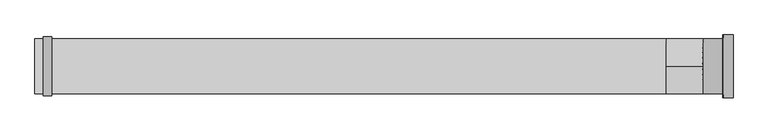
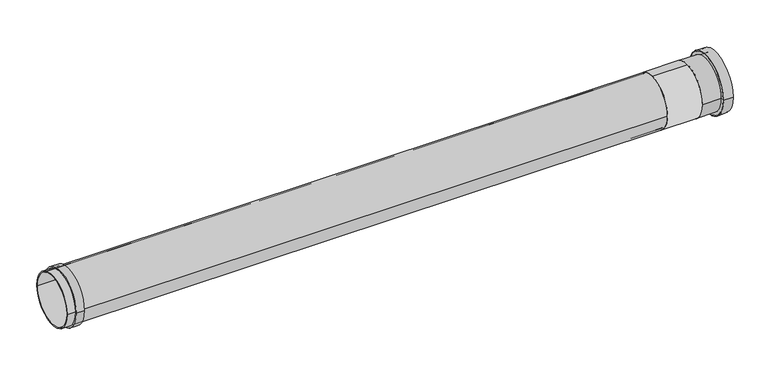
"""IFC4 building model written with IfcOpenShell, lengths in millimetres: pipe fitting geometry, NLRS-90-PIF_Wavin PVC Buitenriolering Wavinflex : 125-125."""

import ifcopenshell
import ifcopenshell.guid

model = None  # the IFC model being written
_history = None  # IfcOwnerHistory: only IFC2X3 demands one
_inside = {}  # id of a spatial element -> (the spatial element, [elements in it])
_under = {}  # id of a project, library or spatial element -> (it, [spatial elements below it])
_declared = {}  # id of a project -> (the project, [libraries it declares])
_typed = {}  # id of a type object -> (the type object, [elements of that type])
_made_of = {}  # id of a material, layer set ... -> (it, [elements and type objects made of it])


def new_model(schema):
    """Start an empty IFC model of exactly this schema.

    Asked for "IFC4X3", IfcOpenShell would pick the latest addendum, in which some entities
    have other attributes; the version numbers below select the first issue.
    IFC2X3 requires an IfcOwnerHistory on every rooted entity: one is made here for all.
    """
    global model, _history
    if schema == "IFC4X3":
        model = ifcopenshell.file(schema_version=(4, 3, 0, 0))
    else:
        model = ifcopenshell.file(schema=schema)
    _inside.clear()
    _under.clear()
    _declared.clear()
    _typed.clear()
    _made_of.clear()
    _history = None
    if model.schema == "IFC2X3":
        org = make("IfcOrganization", Name="unknown")
        user = make(
            "IfcPersonAndOrganization",
            ThePerson=make("IfcPerson", FamilyName="unknown"),
            TheOrganization=org,
        )
        app = make(
            "IfcApplication",
            ApplicationDeveloper=org,
            Version="unknown",
            ApplicationFullName="unknown",
            ApplicationIdentifier="unknown",
        )
        _history = make(
            "IfcOwnerHistory",
            OwningUser=user,
            OwningApplication=app,
            ChangeAction="ADDED",
            CreationDate=0,
        )
    return model


def make(cls, **values):
    """One entity of the class cls with the attributes given. An attribute that is None is left unset."""
    return model.create_entity(
        cls, **{name: value for name, value in values.items() if value is not None}
    )


def rooted(cls, **values):
    """An entity with a GlobalId (a new one), such as an element, a storey or a relation."""
    return make(cls, GlobalId=ifcopenshell.guid.new(), OwnerHistory=_history, **values)


def si_unit(unit_type, name, prefix=None):
    """IfcSIUnit, for example si_unit("LENGTHUNIT", "METRE", prefix="MILLI")."""
    return make("IfcSIUnit", UnitType=unit_type, Prefix=prefix, Name=name)


def assignment(units):
    """IfcUnitAssignment: the units of a project."""
    return None if units is None else make("IfcUnitAssignment", Units=units)


def point(xyz):
    """IfcCartesianPoint."""
    return None if xyz is None else make("IfcCartesianPoint", Coordinates=xyz)


def direction(xyz):
    """IfcDirection."""
    return None if xyz is None else make("IfcDirection", DirectionRatios=xyz)


def frame(location, z_axis=None, x_axis=None):
    """IfcAxis2Placement3D, a coordinate frame: its origin and axes. An axis left out is left unset."""
    return make(
        "IfcAxis2Placement3D",
        Location=point(location),
        Axis=direction(z_axis),
        RefDirection=direction(x_axis),
    )


def frame_2d(location, x_axis=None):
    """IfcAxis2Placement2D, a coordinate frame in the plane: its origin and x axis."""
    return make(
        "IfcAxis2Placement2D", Location=point(location), RefDirection=direction(x_axis)
    )


def origin():
    """The frame at (0, 0, 0) with its axes left unset."""
    return frame((0.0, 0.0, 0.0))


def origin_2d():
    """The frame at (0, 0) in the plane with its x axis left unset."""
    return frame_2d((0.0, 0.0))


def place(relative_to, where):
    """IfcLocalPlacement: puts the frame where relative to a parent placement (None: the world)."""
    return make(
        "IfcLocalPlacement", PlacementRelTo=relative_to, RelativePlacement=where
    )


def context(
    kind, dimensions, precision=None, world=None, true_north=None, identifier=None
):
    """IfcGeometricRepresentationContext, for example the 3D "Model" context."""
    return make(
        "IfcGeometricRepresentationContext",
        ContextIdentifier=identifier,
        ContextType=kind,
        CoordinateSpaceDimension=dimensions,
        Precision=precision,
        WorldCoordinateSystem=world,
        TrueNorth=true_north,
    )


def project(units=None, contexts=None):
    """IfcProject with its units and contexts."""
    return rooted(
        "IfcProject",
        Name="project",
        RepresentationContexts=contexts,
        UnitsInContext=assignment(units),
    )


def spatial(cls, under=None, at=None, **own):
    """A site, building, storey or space (cls), placed at a placement, below another one or the project."""
    s = rooted(cls, ObjectPlacement=at, **own)
    if under is not None:
        _under.setdefault(under.id(), (under, []))[1].append(s)
    return s


def polyline(points):
    """IfcPolyline through the points."""
    return make("IfcPolyline", Points=[point(p) for p in points])


def circle_curve(where, radius):
    """IfcCircle in the frame where."""
    return make("IfcCircle", Position=where, Radius=radius)


def ellipse_curve(where, semi_axis1, semi_axis2):
    """IfcEllipse in the frame where."""
    return make(
        "IfcEllipse", Position=where, SemiAxis1=semi_axis1, SemiAxis2=semi_axis2
    )


def trimmed(basis, trim1, trim2, sense, master):
    """IfcTrimmedCurve: the piece of a basis curve between two trims."""
    return make(
        "IfcTrimmedCurve",
        BasisCurve=basis,
        Trim1=trim1,
        Trim2=trim2,
        SenseAgreement=sense,
        MasterRepresentation=master,
    )


def segment(curve, same_sense, transition):
    """IfcCompositeCurveSegment."""
    return make(
        "IfcCompositeCurveSegment",
        Transition=transition,
        SameSense=same_sense,
        ParentCurve=curve,
    )


def composite_curve(segments, self_intersect=None):
    """IfcCompositeCurve: segments joined end to end."""
    return make("IfcCompositeCurve", Segments=segments, SelfIntersect=self_intersect)


def outline(outer, holes=None, kind="AREA"):
    """IfcArbitraryClosedProfileDef: a profile drawn as a closed curve; with holes, ...WithVoids."""
    if holes is None:
        return make("IfcArbitraryClosedProfileDef", ProfileType=kind, OuterCurve=outer)
    return make(
        "IfcArbitraryProfileDefWithVoids",
        ProfileType=kind,
        OuterCurve=outer,
        InnerCurves=holes,
    )


def extrude(swept, where, along, depth):
    """IfcExtrudedAreaSolid: the profile swept, set in the frame where, extruded along a direction by depth."""
    return make(
        "IfcExtrudedAreaSolid",
        SweptArea=swept,
        Position=where,
        ExtrudedDirection=direction(along),
        Depth=depth,
    )


def shape(context_of_items, identifier, shape_type, items):
    """IfcShapeRepresentation: the items that make up one representation, for example the "Body"."""
    return make(
        "IfcShapeRepresentation",
        ContextOfItems=context_of_items,
        RepresentationIdentifier=identifier,
        RepresentationType=shape_type,
        Items=items,
    )


def source(mapping_origin, context_of_items, identifier, shape_type, items):
    """IfcRepresentationMap: a shape defined once, which mapped items show again and again."""
    return make(
        "IfcRepresentationMap",
        MappingOrigin=mapping_origin,
        MappedRepresentation=shape(context_of_items, identifier, shape_type, items),
    )


def transform(
    local_origin,
    x_axis=None,
    y_axis=None,
    z_axis=None,
    scale=None,
    scale2=None,
    scale3=None,
    uniform=True,
):
    """IfcCartesianTransformationOperator3D, or its non-uniform kind. x_axis, y_axis, z_axis: its Axis1, 2, 3."""
    if uniform:
        return make(
            "IfcCartesianTransformationOperator3D",
            Axis1=direction(x_axis),
            Axis2=direction(y_axis),
            LocalOrigin=point(local_origin),
            Scale=scale,
            Axis3=direction(z_axis),
        )
    return make(
        "IfcCartesianTransformationOperator3DnonUniform",
        Axis1=direction(x_axis),
        Axis2=direction(y_axis),
        LocalOrigin=point(local_origin),
        Scale=scale,
        Axis3=direction(z_axis),
        Scale2=scale2,
        Scale3=scale3,
    )


def mapped(mapping_source, mapping_target):
    """IfcMappedItem: shows the shape of a source again, moved by a transform."""
    return make(
        "IfcMappedItem", MappingSource=mapping_source, MappingTarget=mapping_target
    )


def made_of(thing, what):
    """Note that an element or type object is made of a material, layer set ...; save() writes the relation."""
    if what is not None:
        _made_of.setdefault(what.id(), (what, []))[1].append(thing)
    return thing


def element(
    cls,
    number,
    at=None,
    inside=None,
    cuts=None,
    type_object=None,
    material=None,
    context=None,
    identifier="Body",
    shape_type=None,
    held_by="IfcProductDefinitionShape",
    body=None,
    shapes=None,
    **own,
):
    """One element of the class cls, such as IfcWall. Its Tag is "e" and its number.

    at: its placement. inside: the storey or other place that contains it. cuts: it is an
    opening in that element (IfcRelVoidsElement). A single representation is given by context,
    identifier, shape_type and body (its items); several are given by shapes. held_by: the class
    of the entity that holds the representations. save() writes the other relations.
    """
    e = rooted(cls, Tag="e%d" % number, ObjectPlacement=at, **own)
    if body is not None:
        shapes = [shape(context, identifier, shape_type, body)]
    if shapes is not None:
        e.Representation = make(held_by, Representations=shapes)
    if inside is not None:
        _inside.setdefault(inside.id(), (inside, []))[1].append(e)
    if cuts is not None:
        rooted(
            "IfcRelVoidsElement", RelatingBuildingElement=cuts, RelatedOpeningElement=e
        )
    if type_object is not None:
        _typed.setdefault(type_object.id(), (type_object, []))[1].append(e)
    return made_of(e, material)


def aggregate(whole, parts):
    """IfcRelAggregates: a whole, such as a stair, and the parts it consists of."""
    return rooted("IfcRelAggregates", RelatingObject=whole, RelatedObjects=parts)


def save(model, path):
    """Write the relations noted so far, then the file.

    IfcRelAggregates (storeys below a building ...), IfcRelContainedInSpatialStructure (elements
    in a storey), IfcRelDefinesByType, IfcRelAssociatesMaterial and IfcRelDeclares: one each for
    every whole, place, type object, material and project.
    """
    for whole, parts in _under.values():
        aggregate(whole, parts)
    for where, things in _inside.values():
        rooted(
            "IfcRelContainedInSpatialStructure",
            RelatedElements=things,
            RelatingStructure=where,
        )
    for kind, things in _typed.values():
        rooted("IfcRelDefinesByType", RelatedObjects=things, RelatingType=kind)
    for what, things in _made_of.values():
        rooted("IfcRelAssociatesMaterial", RelatedObjects=things, RelatingMaterial=what)
    for by, libraries in _declared.values():
        rooted("IfcRelDeclares", RelatingContext=by, RelatedDefinitions=libraries)
    model.write(path)


def plane_surface(at):
    """IfcPlane: the flat surface through the origin of the frame at, square to its z axis."""
    return make("IfcPlane", Position=at)


def cylinder_surface(at, radius):
    """IfcCylindricalSurface: all points at the distance radius from the z axis of the frame at."""
    return make("IfcCylindricalSurface", Position=at, Radius=radius)


def revolved_surface(curve, axis_point, axis_direction):
    """IfcSurfaceOfRevolution: the curve turned about the line through axis_point along axis_direction."""
    return make(
        "IfcSurfaceOfRevolution",
        SweptCurve=make("IfcArbitraryOpenProfileDef", ProfileType="CURVE", Curve=curve),
        AxisPosition=make("IfcAxis1Placement", Location=point(axis_point), Axis=direction(axis_direction)),
    )


def advanced_brep(points, edges, surfaces, faces):
    """IfcAdvancedBrep: a solid bounded by faces that lie on surfaces and meet in shared edges.

    An edge is (start, end): straight between two places in points (the first is 0);
    or (start, end, curve); or (start, end, curve, False) where it runs against its curve.
    A face is (place in surfaces, loops), or (place, loops, False) where it looks against
    its surface's normal. A loop lists edges by number (the first is 1), with a minus sign
    where the edge is run from its end to its start. The first loop is the outer one.
    """
    corners = [point(p) for p in points]
    vertices = [make("IfcVertexPoint", VertexGeometry=c) for c in corners]
    made = []
    for start, end, *more in edges:
        made.append(
            make(
                "IfcEdgeCurve",
                EdgeStart=vertices[start],
                EdgeEnd=vertices[end],
                EdgeGeometry=more[0] if more else make("IfcPolyline", Points=[corners[start], corners[end]]),
                SameSense=more[1] if len(more) > 1 else True,
            )
        )
    hull = []
    for where, loops, *sense in faces:
        bounds = []
        for j, loop in enumerate(loops):
            ring = [make("IfcOrientedEdge", EdgeElement=made[abs(k) - 1], Orientation=k > 0) for k in loop]
            bounds.append(
                make(
                    "IfcFaceOuterBound" if j == 0 else "IfcFaceBound",
                    Bound=make("IfcEdgeLoop", EdgeList=ring),
                    Orientation=True,
                )
            )
        hull.append(make("IfcAdvancedFace", Bounds=bounds, FaceSurface=surfaces[where], SameSense=sense[0] if sense else True))
    return make("IfcAdvancedBrep", Outer=make("IfcClosedShell", CfsFaces=hull))


def pipe_fitting_f4afef39(model_context):
    return source(origin(), model_context, "Body", "SolidModel", [
        advanced_brep(
        [(47.5, -65.7, 0.0), (47.5, 65.7, 0.0), (46.5, 65.7, 0.0), (46.5, -65.7, 0.0), (47.5, -73.5, 0.0), (47.5, 73.5, 0.0), (71.0, -73.5, 0.0), (71.0, 73.5, 0.0), (71.0, -74.5, 0.0), (71.0, 74.5, 0.0), (47.5268321, -74.5, 0.0), (47.5268321, 74.5, 0.0), (46.5, 73.4731679, 0.0), (46.5, -73.4731679, 0.0)],
        [
            (0, 1, circle_curve(frame((47.5, 0.0, 0.0), z_axis=(1.0, 0.0, 0.0), x_axis=(0.0, 1.0, 0.0)), 65.7)),
            (1, 2),
            (2, 3, circle_curve(frame((46.5, 0.0, 0.0), z_axis=(-1.0, 0.0, 0.0), x_axis=(0.0, 1.0, 0.0)), 65.7)),
            (3, 0),
            (1, 0, circle_curve(frame((47.5, 0.0, 0.0), z_axis=(1.0, 0.0, 0.0), x_axis=(0.0, 1.0, 0.0)), 65.7)),
            (3, 2, circle_curve(frame((46.5, 0.0, 0.0), z_axis=(-1.0, 0.0, 0.0), x_axis=(0.0, 1.0, 0.0)), 65.7)),
            (4, 5, circle_curve(frame((47.5, 0.0, 0.0), z_axis=(1.0, 0.0, 0.0), x_axis=(0.0, 1.0, 0.0)), 73.5)),
            (5, 1),
            (0, 4),
            (5, 4, circle_curve(frame((47.5, 0.0, 0.0), z_axis=(1.0, 0.0, 0.0), x_axis=(0.0, 1.0, 0.0)), 73.5)),
            (6, 7, circle_curve(frame((71.0, 0.0, 0.0), z_axis=(1.0, 0.0, 0.0), x_axis=(0.0, 1.0, 0.0)), 73.5)),
            (7, 5),
            (4, 6),
            (7, 6, circle_curve(frame((71.0, 0.0, 0.0), z_axis=(1.0, 0.0, 0.0), x_axis=(0.0, 1.0, 0.0)), 73.5)),
            (8, 9, circle_curve(frame((71.0, 0.0, 0.0), z_axis=(1.0, 0.0, 0.0), x_axis=(0.0, 1.0, 0.0)), 74.5)),
            (9, 7),
            (6, 8),
            (9, 8, circle_curve(frame((71.0, 0.0, 0.0), z_axis=(1.0, 0.0, 0.0), x_axis=(0.0, 1.0, 0.0)), 74.5)),
            (10, 11, circle_curve(frame((47.5268321, 0.0, 0.0), z_axis=(1.0, 0.0, 0.0), x_axis=(0.0, 1.0, 0.0)), 74.5)),
            (11, 9),
            (8, 10),
            (11, 10, circle_curve(frame((47.5268321, 0.0, 0.0), z_axis=(1.0, 0.0, 0.0), x_axis=(0.0, 1.0, 0.0)), 74.5)),
            (2, 12),
            (12, 13, circle_curve(frame((46.5, 0.0, 0.0), z_axis=(-1.0, 0.0, 0.0), x_axis=(0.0, 1.0, 0.0)), 73.4731679)),
            (13, 3),
            (13, 12, circle_curve(frame((46.5, 0.0, 0.0), z_axis=(-1.0, 0.0, 0.0), x_axis=(0.0, 1.0, 0.0)), 73.4731679)),
            (12, 11, circle_curve(frame((47.5268321, 73.4731679, 0.0), z_axis=(0.0, 0.0, -1.0), x_axis=(1.0, 0.0, 0.0)), 1.0268321)),
            (10, 13, circle_curve(frame((47.5268321, -73.4731679, 0.0), z_axis=(0.0, 0.0, -1.0), x_axis=(1.0, 0.0, 0.0)), 1.0268321)),
        ],
        [
            revolved_surface(polyline([(46.5, 65.7, 0.0), (47.5, 65.7, 0.0)]), (1846.0, 0.0, 0.0), (-1.0, 0.0, 0.0)),
            plane_surface(frame((47.5, 0.0, 0.0), z_axis=(1.0, 0.0, 0.0), x_axis=(0.0, 1.0, 0.0))),
            revolved_surface(polyline([(47.5, 73.5, 0.0), (71.0, 73.5, 0.0)]), (1846.0, 0.0, 0.0), (-1.0, 0.0, 0.0)),
            plane_surface(frame((71.0, 0.0, 0.0), z_axis=(1.0, 0.0, 0.0), x_axis=(0.0, 1.0, 0.0))),
            cylinder_surface(frame((1846.0, 0.0, 0.0), z_axis=(-1.0, 0.0, 0.0), x_axis=(0.0, 1.0, 0.0)), 74.5),
            plane_surface(frame((46.5, 0.0, 0.0), z_axis=(-1.0, 0.0, 0.0), x_axis=(0.0, 1.0, 0.0))),
            revolved_surface(trimmed(ellipse_curve(frame((47.5268321, 73.4731679, 0.0), z_axis=(0.0, 0.0, 1.0), x_axis=(1.0, 0.0, 0.0)), 1.0268321, 1.0268321), [point((47.5268321, 74.5, 0.0))], [point((46.5, 73.4731679, 0.0))], True, "CARTESIAN"), (1846.0, 0.0, 0.0), (-1.0, 0.0, 0.0)),
        ],
        [
            (0, [[1, 2, 3, 4]]),
            (0, [[5, -4, 6, -2]]),
            (1, [[7, 8, -1, 9]]),
            (1, [[10, -9, -5, -8]]),
            (2, [[11, 12, -7, 13]]),
            (2, [[14, -13, -10, -12]]),
            (3, [[15, 16, -11, 17]]),
            (3, [[18, -17, -14, -16]]),
            (4, [[19, 20, -15, 21]]),
            (4, [[22, -21, -18, -20]]),
            (5, [[-3, 23, 24, 25]]),
            (5, [[-6, -25, 26, -23]]),
            (6, [[-24, 27, -19, 28]]),
            (6, [[-26, -28, -22, -27]]),
        ],
    ),
        advanced_brep(
        [(71.0, -62.5, 0.0), (71.0, 62.5, 0.0), (-5.5425626, 62.5, 0.0), (-5.5425626, -62.5, 0.0), (71.0, -73.5, 0.0), (71.0, 73.5, 0.0), (47.5, -73.5, 0.0), (47.5, 73.5, 0.0), (47.5, -65.7, 0.0), (47.5, 65.7, 0.0), (0.0, -65.7, 0.0), (0.0, 65.7, 0.0)],
        [
            (0, 1, circle_curve(frame((71.0, 0.0, 0.0), z_axis=(1.0, 0.0, 0.0), x_axis=(0.0, 1.0, 0.0)), 62.5)),
            (1, 2),
            (2, 3, circle_curve(frame((-5.5425626, 0.0, 0.0), z_axis=(-1.0, 0.0, 0.0), x_axis=(0.0, 1.0, 0.0)), 62.5)),
            (3, 0),
            (1, 0, circle_curve(frame((71.0, 0.0, 0.0), z_axis=(1.0, 0.0, 0.0), x_axis=(0.0, 1.0, 0.0)), 62.5)),
            (3, 2, circle_curve(frame((-5.5425626, 0.0, 0.0), z_axis=(-1.0, 0.0, 0.0), x_axis=(0.0, 1.0, 0.0)), 62.5)),
            (4, 5, circle_curve(frame((71.0, 0.0, 0.0), z_axis=(1.0, 0.0, 0.0), x_axis=(0.0, 1.0, 0.0)), 73.5)),
            (5, 1),
            (0, 4),
            (5, 4, circle_curve(frame((71.0, 0.0, 0.0), z_axis=(1.0, 0.0, 0.0), x_axis=(0.0, 1.0, 0.0)), 73.5)),
            (6, 7, circle_curve(frame((47.5, 0.0, 0.0), z_axis=(1.0, 0.0, 0.0), x_axis=(0.0, 1.0, 0.0)), 73.5)),
            (7, 5),
            (4, 6),
            (7, 6, circle_curve(frame((47.5, 0.0, 0.0), z_axis=(1.0, 0.0, 0.0), x_axis=(0.0, 1.0, 0.0)), 73.5)),
            (8, 9, circle_curve(frame((47.5, 0.0, 0.0), z_axis=(1.0, 0.0, 0.0), x_axis=(0.0, 1.0, 0.0)), 65.7)),
            (9, 7),
            (6, 8),
            (9, 8, circle_curve(frame((47.5, 0.0, 0.0), z_axis=(1.0, 0.0, 0.0), x_axis=(0.0, 1.0, 0.0)), 65.7)),
            (10, 11, circle_curve(frame((0.0, 0.0, 0.0), z_axis=(1.0, 0.0, 0.0), x_axis=(0.0, 1.0, 0.0)), 65.7)),
            (11, 9),
            (8, 10),
            (11, 10, circle_curve(frame((0.0, 0.0, 0.0), z_axis=(1.0, 0.0, 0.0), x_axis=(0.0, 1.0, 0.0)), 65.7)),
            (2, 11),
            (10, 3),
        ],
        [
            revolved_surface(polyline([(-5.542562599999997, 62.5, 0.0), (70.99999999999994, 62.5, 0.0)]), (-478.9400222, 0.0, 0.0), (-1.0, 0.0, 0.0)),
            plane_surface(frame((71.0, 0.0, 0.0), z_axis=(1.0, 0.0, 0.0), x_axis=(0.0, 1.0, 0.0))),
            cylinder_surface(frame((-478.9400222, 0.0, 0.0), z_axis=(-1.0, 0.0, 0.0), x_axis=(0.0, 1.0, 0.0)), 73.5),
            plane_surface(frame((47.5, 0.0, 0.0), z_axis=(-1.0, 0.0, 0.0), x_axis=(0.0, 1.0, 0.0))),
            cylinder_surface(frame((-478.9400222, 0.0, 0.0), z_axis=(-1.0, 0.0, 0.0), x_axis=(0.0, 1.0, 0.0)), 65.7),
            revolved_surface(polyline([(0.0, 65.7, 0.0), (-5.5425626, 62.5, 0.0)]), (-478.9400222, 0.0, 0.0), (-1.0, 0.0, 0.0)),
        ],
        [
            (0, [[1, 2, 3, 4]]),
            (0, [[5, -4, 6, -2]]),
            (1, [[7, 8, -1, 9]]),
            (1, [[10, -9, -5, -8]]),
            (2, [[11, 12, -7, 13]]),
            (2, [[14, -13, -10, -12]]),
            (3, [[15, 16, -11, 17]]),
            (3, [[18, -17, -14, -16]]),
            (4, [[19, 20, -15, 21]]),
            (4, [[22, -21, -18, -20]]),
            (5, [[-3, 23, -19, 24]]),
            (5, [[-6, -24, -22, -23]]),
        ],
    ),
        extrude(outline(composite_curve([segment(trimmed(circle_curve(origin_2d(), 65.7), [point((0.0, -65.7))], [point((0.0, 65.7))], False, "CARTESIAN"), True, "CONTINUOUS"), segment(trimmed(circle_curve(origin_2d(), 65.7), [point((0.0, 65.7))], [point((0.0, -65.7))], False, "CARTESIAN"), True, "CONTINUOUS")], self_intersect=False)), frame((-88.0, 0.0, 0.0), z_axis=(1.0, 0.0, 0.0), x_axis=(0.0, 1.0, 0.0)), (0.0, 0.0, 1.0), 88.0),
        extrude(outline(composite_curve([segment(trimmed(circle_curve(origin_2d(), 62.5), [point((0.0, -62.5))], [point((0.0, 62.5))], False, "CARTESIAN"), True, "CONTINUOUS"), segment(trimmed(circle_curve(origin_2d(), 62.5), [point((0.0, 62.5))], [point((0.0, -62.5))], False, "CARTESIAN"), True, "CONTINUOUS")], self_intersect=False)), frame((-161.0, 0.0, 0.0), z_axis=(1.0, 0.0, 0.0), x_axis=(0.0, 1.0, 0.0)), (0.0, 0.0, 1.0), 73.0),
        extrude(outline(composite_curve([segment(trimmed(circle_curve(origin_2d(), 70.0), [point((70.0, 0.0))], [point((-70.0, 0.0))], False, "CARTESIAN"), True, "CONTINUOUS"), segment(trimmed(circle_curve(origin_2d(), 70.0), [point((-70.0, 0.0))], [point((70.0, 0.0))], False, "CARTESIAN"), True, "CONTINUOUS")], self_intersect=False), holes=[composite_curve([segment(trimmed(circle_curve(origin_2d(), 65.7), [point((65.7, 0.0))], [point((-65.7, 0.0))], True, "CARTESIAN"), True, "CONTINUOUS"), segment(trimmed(circle_curve(origin_2d(), 65.7), [point((-65.7, 0.0))], [point((65.7, 0.0))], True, "CARTESIAN"), True, "CONTINUOUS")], self_intersect=False)]), frame((-1568.0, 0.0, 0.0), z_axis=(1.0, 0.0, 0.0), x_axis=(0.0, 1.0, 0.0)), (0.0, 0.0, 1.0), 20.0),
        extrude(outline(composite_curve([segment(trimmed(circle_curve(origin_2d(), 65.7), [point((-65.7, 0.0))], [point((65.7, 0.0))], False, "CARTESIAN"), True, "CONTINUOUS"), segment(trimmed(circle_curve(origin_2d(), 65.7), [point((65.7, 0.0))], [point((-65.7, 0.0))], False, "CARTESIAN"), True, "CONTINUOUS")], self_intersect=False), holes=[composite_curve([segment(trimmed(circle_curve(origin_2d(), 62.5), [point((-62.5, 0.0))], [point((62.5, 0.0))], True, "CARTESIAN"), True, "CONTINUOUS"), segment(trimmed(circle_curve(origin_2d(), 62.5), [point((62.5, 0.0))], [point((-62.5, 0.0))], True, "CARTESIAN"), True, "CONTINUOUS")], self_intersect=False)]), frame((-1588.0, 0.0, 0.0), z_axis=(1.0, 0.0, 0.0), x_axis=(0.0, 1.0, 0.0)), (0.0, 0.0, 1.0), 1500.0),
    ])


if __name__ == "__main__":
    model = new_model("IFC4")
    model_context = context("Model", 3, world=origin())
    ifc_project = project(units=[si_unit("LENGTHUNIT", "METRE", prefix="MILLI")], contexts=[model_context])
    site = spatial("IfcSite", under=ifc_project)
    building = spatial("IfcBuilding", under=site)
    placement = place(None, origin())
    pipe_fitting_shape = pipe_fitting_f4afef39(model_context)
    element("IfcPipeFitting", 1, ObjectType="NLRS-90-PIF_Wavin PVC Buitenriolering Wavinflex : 125-125", at=placement, inside=building, context=model_context, shape_type="MappedRepresentation", body=[
        mapped(pipe_fitting_shape, transform((0.0, 0.0, 0.0), x_axis=(1.0, 0.0, 0.0), y_axis=(0.0, 1.0, 0.0), z_axis=(0.0, 0.0, 1.0))),
    ])
    save(model, "model.ifc")
